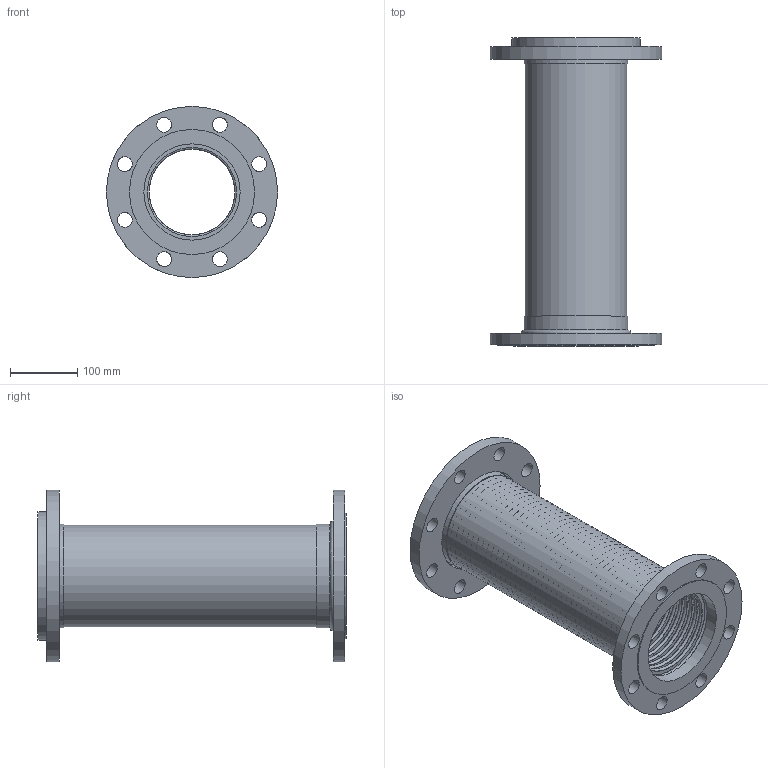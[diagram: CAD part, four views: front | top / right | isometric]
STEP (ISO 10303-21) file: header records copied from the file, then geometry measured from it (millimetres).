
FILE_DESCRIPTION((''),'2;1');
FILE_NAME('C:\2012_Work\Designs\FFLSS\5in_FFLSS_A-30361-3\FFLSS-5x18in.stp','2013-08-26T13:08:49',('KShiels'),(''),'Autodesk Inventor 2012','Autodesk Inventor 2012','');
FILE_SCHEMA(('AUTOMOTIVE_DESIGN { 1 0 10303 214 1 1 1 1 }'));
Length unit declared in the file: inch
Products named in the file (8): FFLSS-5x18in; FFLSS-5x18in_Welds; A-30361-3_5in_FFLSS-BRAID; A-30361-3_5in_FFLSS-BELLOWS; A-30361-3_5in_FFLSS-BRAID-COLLAR; A-30354-2_5in-FIXED-FLANGE; A-30355-1_5in-FLOATING-FLANGE; A-30356-2_5in-WASHER
Assembly tree (8 placements, depth 2):
  FFLSS-5x18in
    FFLSS-5x18in_Welds
    A-30361-3_5in_FFLSS-BRAID
    A-30361-3_5in_FFLSS-BELLOWS
    A-30361-3_5in_FFLSS-BRAID-COLLAR  x2
    A-30354-2_5in-FIXED-FLANGE
    A-30355-1_5in-FLOATING-FLANGE
    A-30356-2_5in-WASHER
Bounding box: 254 x 457.2 x 254 mm (x, y, z)
Volume: 1596517.7 mm3; surface area: 1687993.5 mm2
Topology: 9 solids, 9 shells, 373 faces, 612 edges, 416 vertices
Faces by surface type: plane 177, torus 162, cylinder 31, bspline 2, cone 1
Full cylindrical faces by diameter (mm): 22.225 x16, 142.875 x2, 150.114 x1, 151.13 x3, 153.511 x4, 158.75 x1, 185.738 x1, 190.5 x1, 254 x2
Entity records: 8567 total; most frequent: CARTESIAN_POINT 1806, DIRECTION 1528, ORIENTED_EDGE 782, EDGE_LOOP 768, AXIS2_PLACEMENT_3D 764, FACE_BOUND 399, EDGE_CURVE 391, VERTEX_POINT 389
